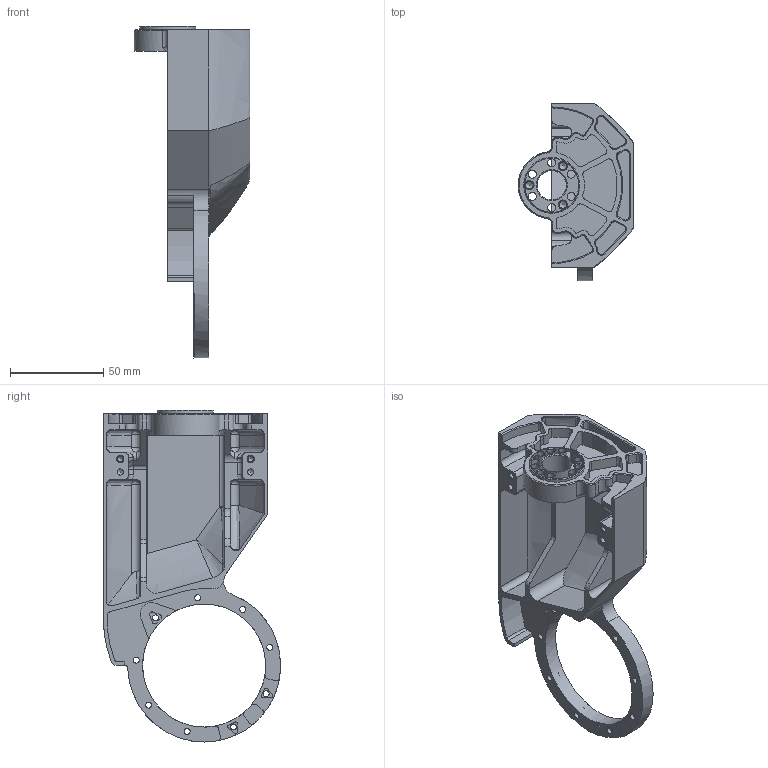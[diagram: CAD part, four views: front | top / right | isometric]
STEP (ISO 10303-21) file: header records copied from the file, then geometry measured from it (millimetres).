
FILE_DESCRIPTION(/* description */ ('STEP AP242 Edition 2','CAx-IF Rec.Pracs.---Representation and Presentation of Product Manufacturing Information (PMI)---4.0---2014-10-13','CAx-IF Rec.Pracs.---3D Tessellated Geometry---0.4---2014-09-14','2;1','CAx-IF Rec.Pracs.---User Defined Attributes---1.5---2016-08-15'),/* implementation_level */ '2;1');
FILE_NAME(/* name */ 'Assy_ForMFG - KD-C-301R_LowerBicepDrive',/* time_stamp */ '2026-05-15T19:56:30Z',/* author */ (''),/* organization */ (''),/* preprocessor_version */ 'ST-DEVELOPER v20',/* originating_system */ 'ONSHAPE BY PTC INC, 1.215',/* authorisation */ ' ');
FILE_SCHEMA (('AP242_MANAGED_MODEL_BASED_3D_ENGINEERING_MIM_LF { 1 0 10303 442 3 1 4 }'));
Length unit declared in the file: metre
Products named in the file (1): KD-C-301R_LowerBicepDrive
Bounding box: 62 x 95 x 178 mm (x, y, z)
Volume: 103793.2 mm3; surface area: 60774.2 mm2
Topology: 1 solids, 1 shells, 402 faces, 1063 edges, 659 vertices
Faces by surface type: cylinder 174, plane 111, bspline 53, cone 50, torus 14
Full cylindrical faces by diameter (mm): 3 x2, 3.2 x9, 3.3 x2, 4 x3, 4.3 x6, 6.5 x9, 15.7 x1, 30 x1, 66 x1
Entity records: 15910 total; most frequent: CARTESIAN_POINT 6419, ORIENTED_EDGE 1954, DIRECTION 1943, EDGE_CURVE 977, AXIS2_PLACEMENT_3D 766, VERTEX_POINT 646, FACE_BOUND 505, EDGE_LOOP 498
